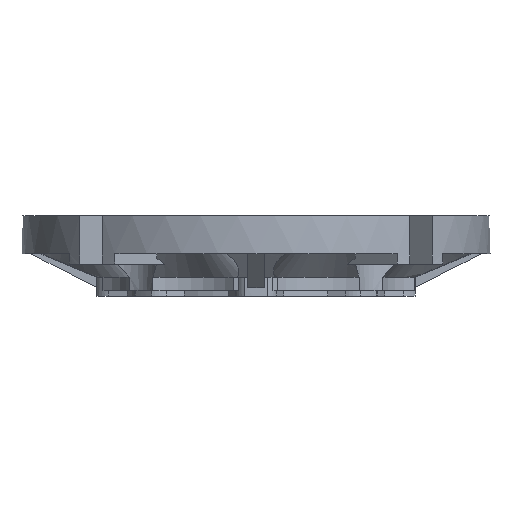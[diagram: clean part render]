
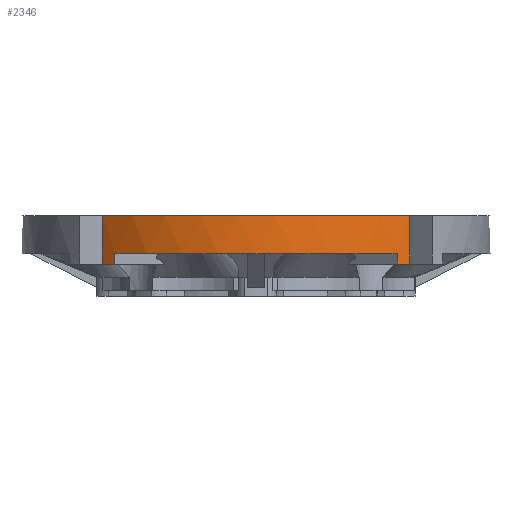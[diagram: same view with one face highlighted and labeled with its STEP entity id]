
A CAD part, front view. The second image highlights one B-rep face of the part: STEP entity #2346.
In plain terms, the highlighted cylindrical face has radius 80 mm (diameter 160 mm), a partial arc.
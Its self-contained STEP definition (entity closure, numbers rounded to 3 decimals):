
#2346=ADVANCED_FACE('',(#2605),#6785,.T.);
#2605=FACE_OUTER_BOUND('',#2875,.T.);
#2875=EDGE_LOOP('',(#4270,#4271,#4272,#4273,#4274,#4275,#4276,#4277));
#4270=ORIENTED_EDGE('',*,*,#5017,.T.);
#4271=ORIENTED_EDGE('',*,*,#5018,.T.);
#4272=ORIENTED_EDGE('',*,*,#4823,.F.);
#4273=ORIENTED_EDGE('',*,*,#5019,.T.);
#4274=ORIENTED_EDGE('',*,*,#4811,.F.);
#4275=ORIENTED_EDGE('',*,*,#5020,.T.);
#4276=ORIENTED_EDGE('',*,*,#4992,.T.);
#4277=ORIENTED_EDGE('',*,*,#5021,.T.);
#4811=EDGE_CURVE('',#6212,#6170,#6044,.T.);
#4823=EDGE_CURVE('',#6172,#6226,#6056,.T.);
#4992=EDGE_CURVE('',#6211,#6567,#6122,.T.);
#5017=EDGE_CURVE('',#6566,#6228,#6139,.T.);
#5018=EDGE_CURVE('',#6228,#6226,#5402,.T.);
#5019=EDGE_CURVE('',#6172,#6170,#5403,.T.);
#5020=EDGE_CURVE('',#6212,#6211,#5404,.T.);
#5021=EDGE_CURVE('',#6567,#6566,#5405,.T.);
#5402=TRIMMED_CURVE($,#5766,(#11666),(#11667),.T.,.CARTESIAN.);
#5403=TRIMMED_CURVE($,#5767,(#11669),(#11670),.T.,.CARTESIAN.);
#5404=TRIMMED_CURVE($,#5768,(#11672),(#11673),.T.,.CARTESIAN.);
#5405=TRIMMED_CURVE($,#5769,(#11675),(#11676),.T.,.CARTESIAN.);
#5766=CIRCLE('',#7639,80.);
#5767=CIRCLE('',#7640,80.);
#5768=CIRCLE('',#7641,80.);
#5769=CIRCLE('',#7642,80.);
#6044=B_SPLINE_CURVE_WITH_KNOTS('',1,(#11078,#11079),.UNSPECIFIED.,.F.,
 .F.,(2,2),(0.,3.5),.UNSPECIFIED.);
#6056=B_SPLINE_CURVE_WITH_KNOTS('',1,(#11108,#11109),.UNSPECIFIED.,.F.,
 .F.,(2,2),(0.,3.5),.UNSPECIFIED.);
#6122=B_SPLINE_CURVE_WITH_KNOTS('',1,(#11605,#11606),.UNSPECIFIED.,.F.,
 .F.,(2,2),(-16.5,0.),.UNSPECIFIED.);
#6139=B_SPLINE_CURVE_WITH_KNOTS('',1,(#11663,#11664),.UNSPECIFIED.,.F.,
 .F.,(2,2),(0.,16.5),.UNSPECIFIED.);
#6170=VERTEX_POINT('',#9325);
#6172=VERTEX_POINT('',#9327);
#6211=VERTEX_POINT('',#9366);
#6212=VERTEX_POINT('',#9367);
#6226=VERTEX_POINT('',#9381);
#6228=VERTEX_POINT('',#9383);
#6566=VERTEX_POINT('',#9721);
#6567=VERTEX_POINT('',#9722);
#6785=CYLINDRICAL_SURFACE('',#7292,80.);
#7292=AXIS2_PLACEMENT_3D('',#9298,#7897,$);
#7639=AXIS2_PLACEMENT_3D($,#11665,#8576,#8577);
#7640=AXIS2_PLACEMENT_3D($,#11668,#8578,#8579);
#7641=AXIS2_PLACEMENT_3D($,#11671,#8580,#8581);
#7642=AXIS2_PLACEMENT_3D($,#11674,#8582,#8583);
#7897=DIRECTION('',(-1.,0.,0.));
#8576=DIRECTION('',(1.,0.,0.));
#8577=DIRECTION('',(0.,-0.754,0.657));
#8578=DIRECTION('',(1.,0.,0.));
#8579=DIRECTION('',(0.,-0.798,0.603));
#8580=DIRECTION('',(1.,0.,0.));
#8581=DIRECTION('',(0.,-0.798,-0.603));
#8582=DIRECTION('',(-1.,0.,0.));
#8583=DIRECTION('',(0.,-0.754,-0.657));
#9298=CARTESIAN_POINT('',(19.25,0.,0.));
#9325=CARTESIAN_POINT('',(14.5,-63.809,-48.253));
#9327=CARTESIAN_POINT('',(14.5,-63.809,48.253));
#9366=CARTESIAN_POINT('',(11.,-60.324,-52.546));
#9367=CARTESIAN_POINT('',(11.,-63.809,-48.253));
#9381=CARTESIAN_POINT('',(11.,-63.809,48.253));
#9383=CARTESIAN_POINT('',(11.,-60.324,52.546));
#9721=CARTESIAN_POINT('',(27.5,-60.324,52.546));
#9722=CARTESIAN_POINT('',(27.5,-60.324,-52.546));
#11078=CARTESIAN_POINT('',(11.,-63.809,-48.253));
#11079=CARTESIAN_POINT('',(14.5,-63.809,-48.253));
#11108=CARTESIAN_POINT('',(14.5,-63.809,48.253));
#11109=CARTESIAN_POINT('',(11.,-63.809,48.253));
#11605=CARTESIAN_POINT('',(11.,-60.324,-52.546));
#11606=CARTESIAN_POINT('',(27.5,-60.324,-52.546));
#11663=CARTESIAN_POINT('',(27.5,-60.324,52.546));
#11664=CARTESIAN_POINT('',(11.,-60.324,52.546));
#11665=CARTESIAN_POINT('',(11.,0.,0.));
#11666=CARTESIAN_POINT('',(11.,-60.324,52.546));
#11667=CARTESIAN_POINT('',(11.,-63.809,48.253));
#11668=CARTESIAN_POINT('',(14.5,0.,0.));
#11669=CARTESIAN_POINT('',(14.5,-63.809,48.253));
#11670=CARTESIAN_POINT('',(14.5,-63.809,-48.253));
#11671=CARTESIAN_POINT('',(11.,0.,0.));
#11672=CARTESIAN_POINT('',(11.,-63.809,-48.253));
#11673=CARTESIAN_POINT('',(11.,-60.324,-52.546));
#11674=CARTESIAN_POINT('',(27.5,0.,0.));
#11675=CARTESIAN_POINT('',(27.5,-60.324,-52.546));
#11676=CARTESIAN_POINT('',(27.5,-60.324,52.546));
